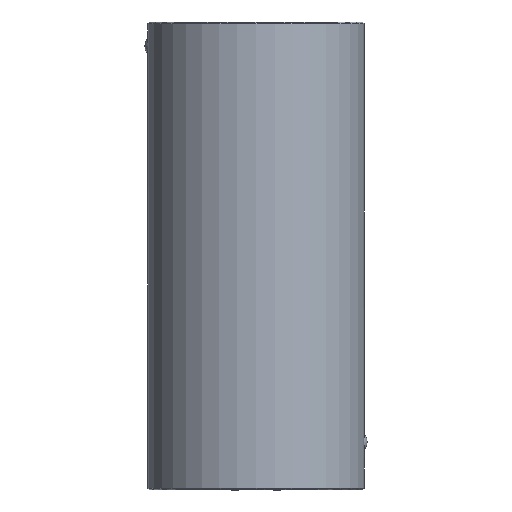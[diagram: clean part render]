
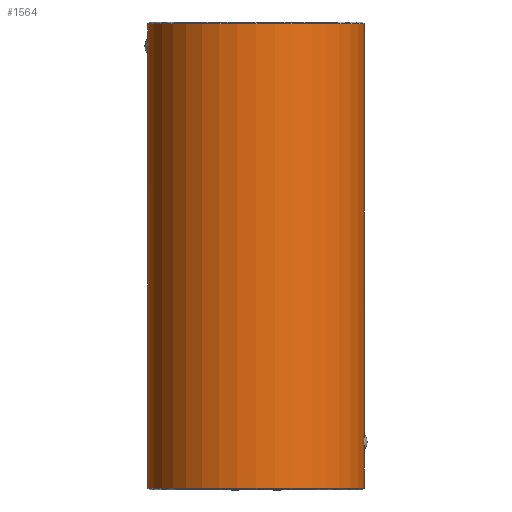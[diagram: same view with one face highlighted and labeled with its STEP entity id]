
A CAD part, front view. The second image highlights one B-rep face of the part: STEP entity #1564.
In plain terms, the highlighted cylindrical face has radius 18.5 mm (diameter 37 mm), a partial arc.
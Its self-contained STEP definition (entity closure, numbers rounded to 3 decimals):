
#1346=CARTESIAN_POINT('Vertex',(-18.5,0.,0.3)) ;
#1353=CARTESIAN_POINT('Vertex',(18.5,0.,0.3)) ;
#1356=CARTESIAN_POINT('Axis2P3D Location',(0.,0.,0.3)) ;
#1474=CARTESIAN_POINT('Axis2P3D Location',(0.,0.,80.)) ;
#1479=CARTESIAN_POINT('Line Origine',(18.5,0.,80.)) ;
#1483=CARTESIAN_POINT('Vertex',(18.5,0.,6.877)) ;
#1487=CARTESIAN_POINT('Control Point',(18.449,-1.379,8.201)) ;
#1488=CARTESIAN_POINT('Control Point',(18.449,-1.379,7.776)) ;
#1489=CARTESIAN_POINT('Control Point',(18.462,-1.201,7.352)) ;
#1490=CARTESIAN_POINT('Control Point',(18.488,-0.85,7.033)) ;
#1491=CARTESIAN_POINT('Control Point',(18.5,-0.425,6.877)) ;
#1492=CARTESIAN_POINT('Control Point',(18.5,0.,6.877)) ;
#1493=CARTESIAN_POINT('Vertex',(18.449,-1.379,8.201)) ;
#1497=CARTESIAN_POINT('Control Point',(18.5,0.,9.523)) ;
#1498=CARTESIAN_POINT('Control Point',(18.5,-0.425,9.523)) ;
#1499=CARTESIAN_POINT('Control Point',(18.488,-0.845,9.368)) ;
#1500=CARTESIAN_POINT('Control Point',(18.462,-1.201,9.052)) ;
#1501=CARTESIAN_POINT('Control Point',(18.449,-1.379,8.625)) ;
#1502=CARTESIAN_POINT('Control Point',(18.449,-1.379,8.201)) ;
#1503=CARTESIAN_POINT('Vertex',(18.5,0.,9.523)) ;
#1506=CARTESIAN_POINT('Line Origine',(18.5,0.,80.)) ;
#1510=CARTESIAN_POINT('Vertex',(18.5,0.,79.7)) ;
#1513=CARTESIAN_POINT('Axis2P3D Location',(0.,0.,79.7)) ;
#1517=CARTESIAN_POINT('Vertex',(-18.5,0.,79.7)) ;
#1520=CARTESIAN_POINT('Line Origine',(-18.5,0.,80.)) ;
#1524=CARTESIAN_POINT('Vertex',(-18.5,0.,77.223)) ;
#1528=CARTESIAN_POINT('Control Point',(-18.449,-1.379,75.899)) ;
#1529=CARTESIAN_POINT('Control Point',(-18.449,-1.379,76.324)) ;
#1530=CARTESIAN_POINT('Control Point',(-18.462,-1.201,76.748)) ;
#1531=CARTESIAN_POINT('Control Point',(-18.488,-0.85,77.067)) ;
#1532=CARTESIAN_POINT('Control Point',(-18.5,-0.425,77.223)) ;
#1533=CARTESIAN_POINT('Control Point',(-18.5,0.,77.223)) ;
#1534=CARTESIAN_POINT('Vertex',(-18.449,-1.379,75.899)) ;
#1538=CARTESIAN_POINT('Control Point',(-18.5,0.,74.577)) ;
#1539=CARTESIAN_POINT('Control Point',(-18.5,-0.425,74.577)) ;
#1540=CARTESIAN_POINT('Control Point',(-18.488,-0.845,74.732)) ;
#1541=CARTESIAN_POINT('Control Point',(-18.462,-1.201,75.048)) ;
#1542=CARTESIAN_POINT('Control Point',(-18.449,-1.379,75.475)) ;
#1543=CARTESIAN_POINT('Control Point',(-18.449,-1.379,75.899)) ;
#1544=CARTESIAN_POINT('Vertex',(-18.5,0.,74.577)) ;
#1547=CARTESIAN_POINT('Line Origine',(-18.5,0.,80.)) ;
#1357=DIRECTION('Axis2P3D Direction',(0.,-0.,1.)) ;
#1475=DIRECTION('Axis2P3D Direction',(0.,0.,-1.)) ;
#1476=DIRECTION('Axis2P3D XDirection',(1.,0.,0.)) ;
#1480=DIRECTION('Vector Direction',(0.,0.,-1.)) ;
#1507=DIRECTION('Vector Direction',(0.,0.,-1.)) ;
#1514=DIRECTION('Axis2P3D Direction',(0.,0.,-1.)) ;
#1521=DIRECTION('Vector Direction',(0.,0.,-1.)) ;
#1548=DIRECTION('Vector Direction',(0.,0.,-1.)) ;
#1358=AXIS2_PLACEMENT_3D('Circle Axis2P3D',#1356,#1357,$) ;
#1477=AXIS2_PLACEMENT_3D('Cylinder Axis2P3D',#1474,#1475,#1476) ;
#1515=AXIS2_PLACEMENT_3D('Circle Axis2P3D',#1513,#1514,$) ;
#1553=ORIENTED_EDGE('',*,*,#1485,.T.) ;
#1554=ORIENTED_EDGE('',*,*,#1495,.F.) ;
#1555=ORIENTED_EDGE('',*,*,#1505,.F.) ;
#1556=ORIENTED_EDGE('',*,*,#1512,.T.) ;
#1557=ORIENTED_EDGE('',*,*,#1519,.F.) ;
#1558=ORIENTED_EDGE('',*,*,#1526,.T.) ;
#1559=ORIENTED_EDGE('',*,*,#1536,.F.) ;
#1560=ORIENTED_EDGE('',*,*,#1546,.F.) ;
#1561=ORIENTED_EDGE('',*,*,#1551,.T.) ;
#1562=ORIENTED_EDGE('',*,*,#1360,.T.) ;
#1481=VECTOR('Line Direction',#1480,1.) ;
#1508=VECTOR('Line Direction',#1507,1.) ;
#1522=VECTOR('Line Direction',#1521,1.) ;
#1549=VECTOR('Line Direction',#1548,1.) ;
#1564=ADVANCED_FACE('730-30x80',(#1563),#1478,.T.) ;
#1486=B_SPLINE_CURVE_WITH_KNOTS('',5,(#1487,#1488,#1489,#1490,#1491,#1492),.UNSPECIFIED.,.F.,.U.,(6,6),(0.,3.013),.UNSPECIFIED.) ;
#1496=B_SPLINE_CURVE_WITH_KNOTS('',5,(#1497,#1498,#1499,#1500,#1501,#1502),.UNSPECIFIED.,.F.,.U.,(6,6),(0.,3.006),.UNSPECIFIED.) ;
#1527=B_SPLINE_CURVE_WITH_KNOTS('',5,(#1528,#1529,#1530,#1531,#1532,#1533),.UNSPECIFIED.,.F.,.U.,(6,6),(0.,3.013),.UNSPECIFIED.) ;
#1537=B_SPLINE_CURVE_WITH_KNOTS('',5,(#1538,#1539,#1540,#1541,#1542,#1543),.UNSPECIFIED.,.F.,.U.,(6,6),(0.,3.006),.UNSPECIFIED.) ;
#1359=CIRCLE('generated circle',#1358,18.5) ;
#1516=CIRCLE('generated circle',#1515,18.5) ;
#1478=CYLINDRICAL_SURFACE('generated cylinder',#1477,18.5) ;
#1360=EDGE_CURVE('',#1347,#1354,#1359,.T.) ;
#1485=EDGE_CURVE('',#1354,#1484,#1482,.F.) ;
#1495=EDGE_CURVE('',#1494,#1484,#1486,.T.) ;
#1505=EDGE_CURVE('',#1504,#1494,#1496,.T.) ;
#1512=EDGE_CURVE('',#1504,#1511,#1509,.F.) ;
#1519=EDGE_CURVE('',#1518,#1511,#1516,.F.) ;
#1526=EDGE_CURVE('',#1518,#1525,#1523,.T.) ;
#1536=EDGE_CURVE('',#1535,#1525,#1527,.T.) ;
#1546=EDGE_CURVE('',#1545,#1535,#1537,.T.) ;
#1551=EDGE_CURVE('',#1545,#1347,#1550,.T.) ;
#1552=EDGE_LOOP('',(#1553,#1554,#1555,#1556,#1557,#1558,#1559,#1560,#1561,#1562)) ;
#1563=FACE_OUTER_BOUND('',#1552,.T.) ;
#1482=LINE('Line',#1479,#1481) ;
#1509=LINE('Line',#1506,#1508) ;
#1523=LINE('Line',#1520,#1522) ;
#1550=LINE('Line',#1547,#1549) ;
#1347=VERTEX_POINT('',#1346) ;
#1354=VERTEX_POINT('',#1353) ;
#1484=VERTEX_POINT('',#1483) ;
#1494=VERTEX_POINT('',#1493) ;
#1504=VERTEX_POINT('',#1503) ;
#1511=VERTEX_POINT('',#1510) ;
#1518=VERTEX_POINT('',#1517) ;
#1525=VERTEX_POINT('',#1524) ;
#1535=VERTEX_POINT('',#1534) ;
#1545=VERTEX_POINT('',#1544) ;
